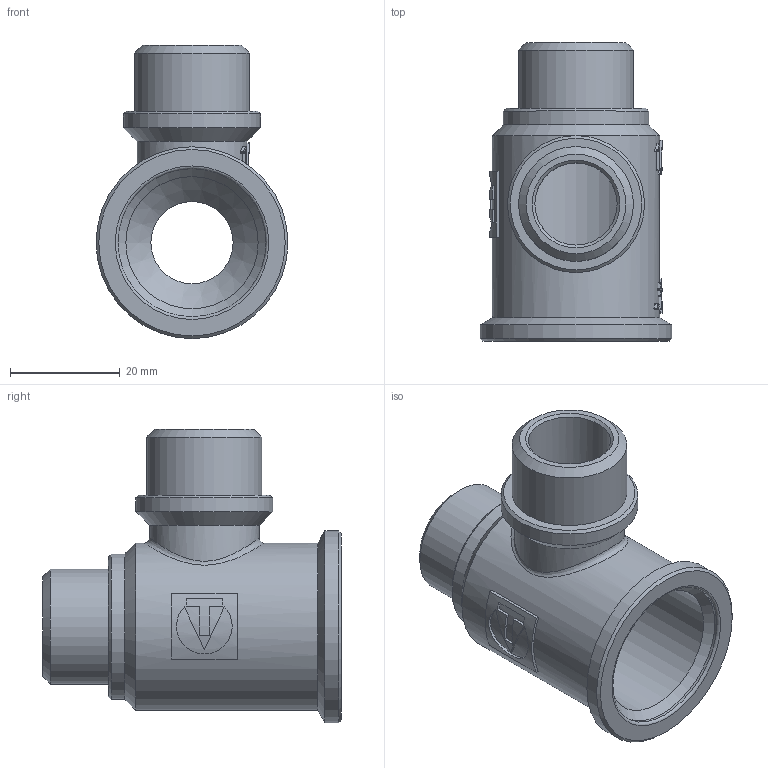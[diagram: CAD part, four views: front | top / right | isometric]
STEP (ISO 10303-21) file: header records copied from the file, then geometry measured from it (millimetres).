
FILE_DESCRIPTION(('STEP AP203'), '1');
FILE_NAME('ÂÐ.752249.008 - VTr.133.RN.050404 - Ôèò. ðåçüá. òðîé', '2024-06-25T11:48:24', ('Boss'), (''), 'C3D Converter', 'C3D Toolkit', '');
FILE_SCHEMA(('CONFIG_CONTROL_DESIGN'));
Length unit declared in the file: millimetre
Products named in the file (1): ВР.752249.008
Bounding box: 35 x 54.5 x 53.5 mm (x, y, z)
Volume: 18474.5 mm3; surface area: 12120.8 mm2
Topology: 1 solids, 1 shells, 329 faces, 905 edges, 598 vertices
Faces by surface type: extrusion 185, plane 100, cylinder 30, cone 12, bspline 1, torus 1
Full cylindrical faces by diameter (mm): 15 x2, 20 x1, 20.955 x1, 21 x1, 24.118 x1, 25 x1, 26.5 x1, 27 x1, 30.5 x1, 35 x1
Entity records: 14915 total; most frequent: CARTESIAN_POINT 7640, ORIENTED_EDGE 1756, DIRECTION 930, EDGE_CURVE 878, VERTEX_POINT 597, B_SPLINE_CURVE_WITH_KNOTS 560, VECTOR 502, EDGE_LOOP 379
